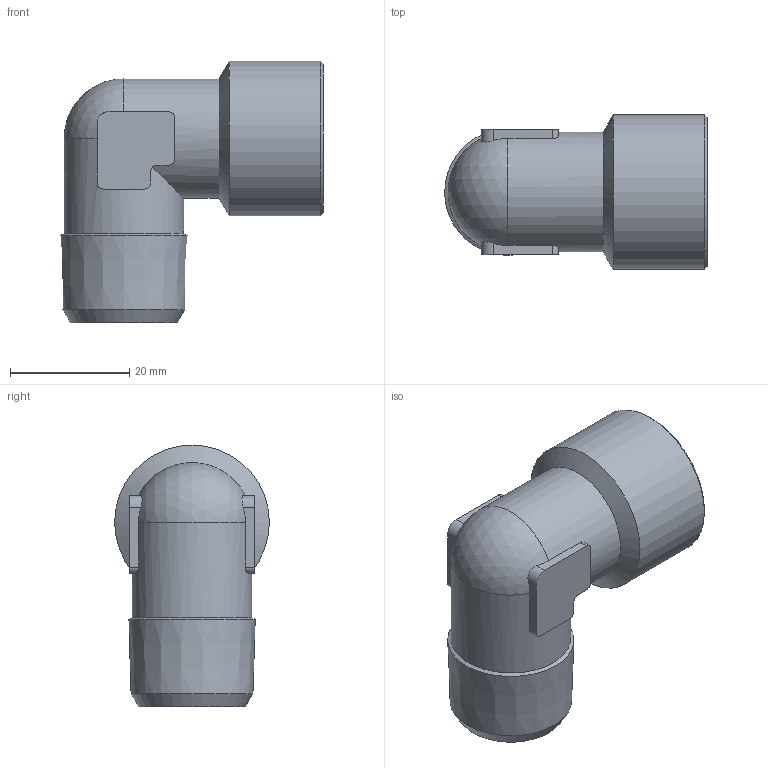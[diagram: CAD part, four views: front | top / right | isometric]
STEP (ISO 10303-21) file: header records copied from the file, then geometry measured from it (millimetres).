
FILE_DESCRIPTION(/* description */ (''),/* implementation_level */ '2;1');
FILE_NAME(/* name */ '50205_110_R12_G12_26.09.16',/* time_stamp */ '2016-09-26T11:09:36+02:00',/* author */ (''),/* organization */ (''),/* preprocessor_version */ 'ST-DEVELOPER v16.5',/* originating_system */ 'HiCAD 2016 2101.0 Build 254',/* authorisation */ '');
FILE_SCHEMA (('AUTOMOTIVE_DESIGN { 1 0 10303 214 1 1 1 1 }'));
Length unit declared in the file: millimetre
Products named in the file (2): Root; 50205
Assembly tree (1 placements, depth 2):
  Root
    50205
Bounding box: 44.12 x 26 x 44 mm (x, y, z)
Volume: 11254.6 mm3; surface area: 8129.8 mm2
Topology: 1 solids, 1 shells, 48 faces, 134 edges, 84 vertices
Faces by surface type: cylinder 22, plane 16, cone 7, sphere 3
Full cylindrical faces by diameter (mm): 15 x2, 18.631 x1, 20.1 x2, 26 x1
Entity records: 4534 total; most frequent: CARTESIAN_POINT 2295, DIRECTION 240, PRESENTATION_STYLE_ASSIGNMENT 221, COLOUR_RGB 221, DRAUGHTING_PRE_DEFINED_CURVE_FONT 220, CURVE_STYLE 220, OVER_RIDING_STYLED_ITEM 220, ORIENTED_EDGE 220
